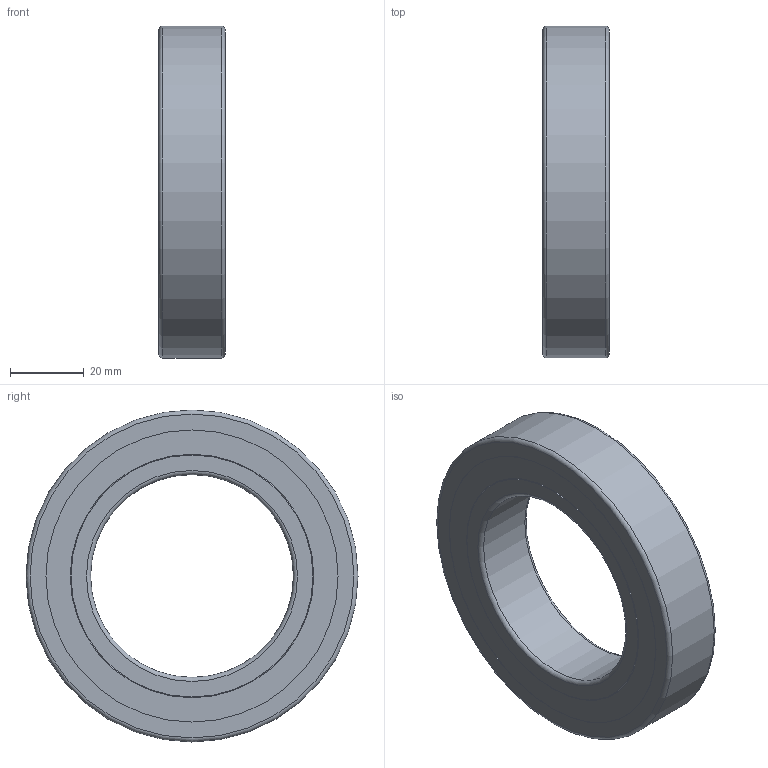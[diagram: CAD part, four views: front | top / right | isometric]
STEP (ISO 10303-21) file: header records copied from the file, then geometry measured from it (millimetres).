
FILE_DESCRIPTION(/* description */ (''),/* implementation_level */ '2;1');
FILE_NAME(/* name */ 'KH_6011_TA.step',/* time_stamp */ '2013-03-07T07:04:28+01:00',/* author */ ('Marian'),/* organization */ ('GMN'),/* preprocessor_version */ 'ST-DEVELOPER v11',/* originating_system */ 'SIEMENS UGS NX 6.0',/* authorisation */ '');
FILE_SCHEMA (('CONFIG_CONTROL_DESIGN'));
Length unit declared in the file: millimetre
Products named in the file (1): KH_6011_TA
Bounding box: 18 x 90 x 90 mm (x, y, z)
Volume: 57488.8 mm3; surface area: 39214.4 mm2
Topology: 28 solids, 28 shells, 78 faces, 194 edges, 126 vertices
Faces by surface type: cylinder 36, sphere 23, plane 12, torus 6, cone 1
Full cylindrical faces by diameter (mm): 8.138 x23, 55 x1, 65.6 x1, 66 x1, 66.8 x1, 67.2 x1, 71.698 x1, 76.596 x1, 76.996 x1, 79.2 x2, 82.4 x2, 90 x1
Entity records: 4284 total; most frequent: CARTESIAN_POINT 2880, DIRECTION 222, FACE_BOUND 179, EDGE_LOOP 156, ORIENTED_EDGE 156, AXIS2_PLACEMENT_3D 111, VERTEX_POINT 101, ADVANCED_FACE 78
